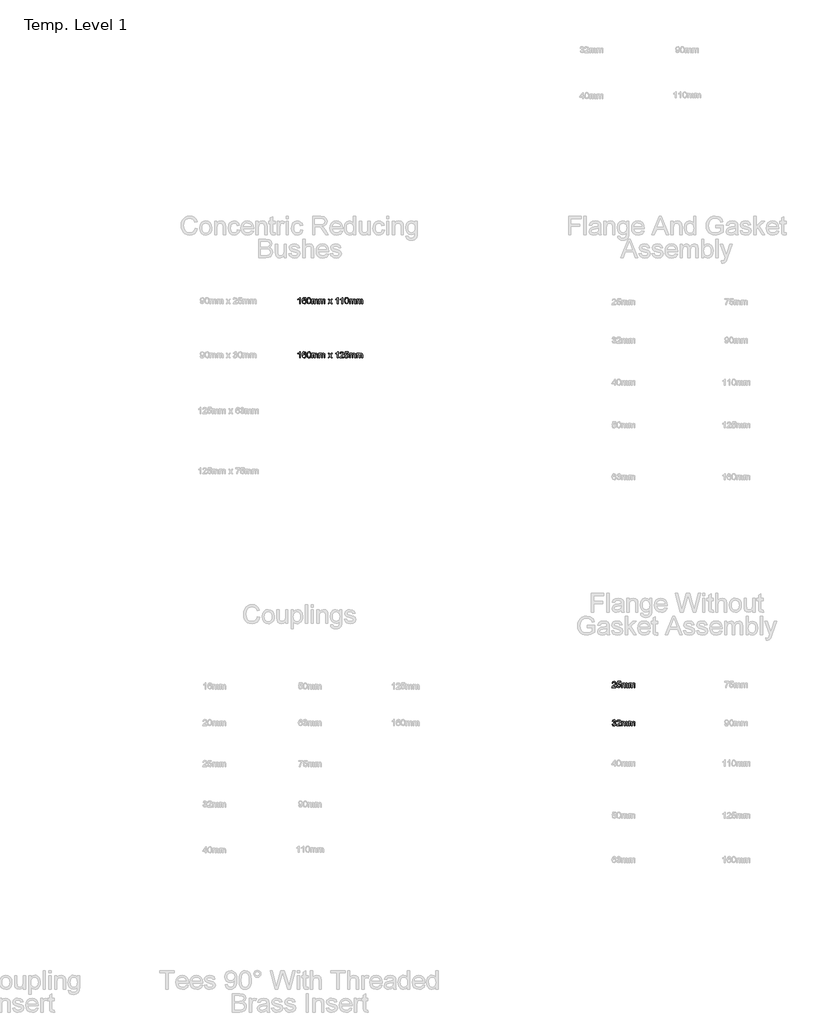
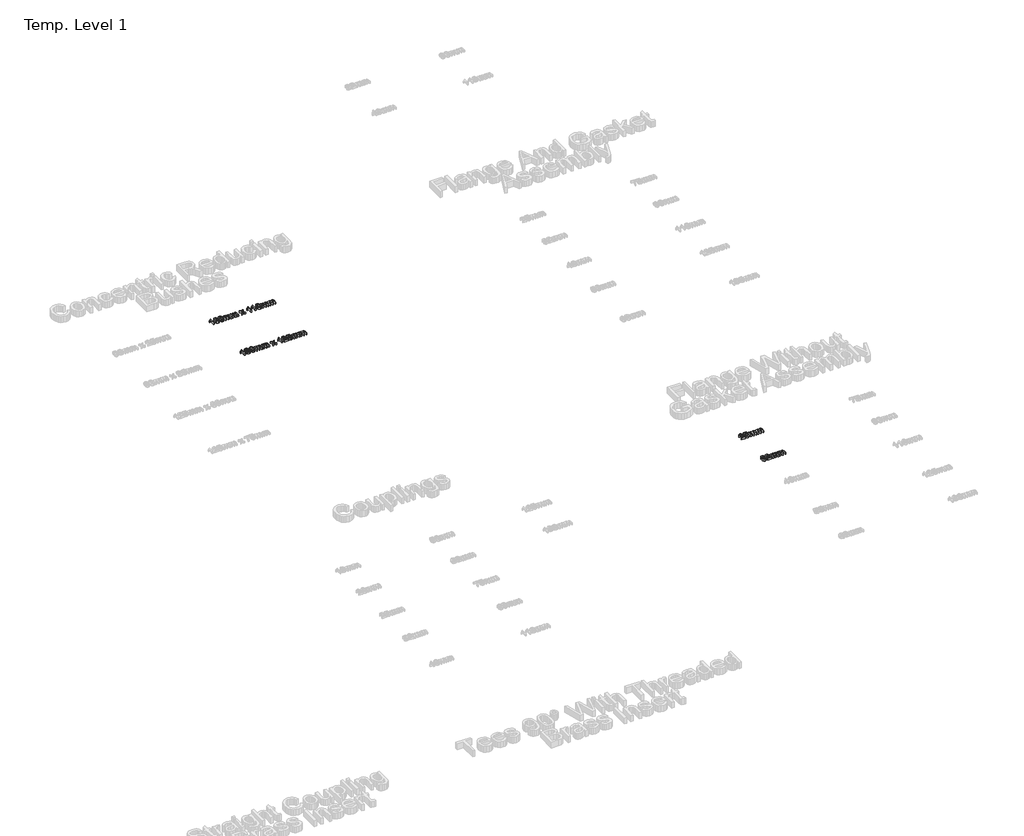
# One storey, part 32 of 62: 4 proxies.
"""IFC4 building model written with IfcOpenShell, lengths in millimetres."""

import ifcopenshell
import ifcopenshell.guid

model = None  # the IFC model being written
_history = None  # IfcOwnerHistory: only IFC2X3 demands one
_inside = {}  # id of a spatial element -> (the spatial element, [elements in it])
_under = {}  # id of a project, library or spatial element -> (it, [spatial elements below it])
_declared = {}  # id of a project -> (the project, [libraries it declares])
_typed = {}  # id of a type object -> (the type object, [elements of that type])
_made_of = {}  # id of a material, layer set ... -> (it, [elements and type objects made of it])


def new_model(schema):
    """Start an empty IFC model of exactly this schema.

    Asked for "IFC4X3", IfcOpenShell would pick the latest addendum, in which some entities
    have other attributes; the version numbers below select the first issue.
    IFC2X3 requires an IfcOwnerHistory on every rooted entity: one is made here for all.
    """
    global model, _history
    if schema == "IFC4X3":
        model = ifcopenshell.file(schema_version=(4, 3, 0, 0))
    else:
        model = ifcopenshell.file(schema=schema)
    _inside.clear()
    _under.clear()
    _declared.clear()
    _typed.clear()
    _made_of.clear()
    _history = None
    if model.schema == "IFC2X3":
        org = make("IfcOrganization", Name="unknown")
        user = make(
            "IfcPersonAndOrganization",
            ThePerson=make("IfcPerson", FamilyName="unknown"),
            TheOrganization=org,
        )
        app = make(
            "IfcApplication",
            ApplicationDeveloper=org,
            Version="unknown",
            ApplicationFullName="unknown",
            ApplicationIdentifier="unknown",
        )
        _history = make(
            "IfcOwnerHistory",
            OwningUser=user,
            OwningApplication=app,
            ChangeAction="ADDED",
            CreationDate=0,
        )
    return model


def make(cls, **values):
    """One entity of the class cls with the attributes given. An attribute that is None is left unset."""
    return model.create_entity(
        cls, **{name: value for name, value in values.items() if value is not None}
    )


def rooted(cls, **values):
    """An entity with a GlobalId (a new one), such as an element, a storey or a relation."""
    return make(cls, GlobalId=ifcopenshell.guid.new(), OwnerHistory=_history, **values)


def si_unit(unit_type, name, prefix=None):
    """IfcSIUnit, for example si_unit("LENGTHUNIT", "METRE", prefix="MILLI")."""
    return make("IfcSIUnit", UnitType=unit_type, Prefix=prefix, Name=name)


def assignment(units):
    """IfcUnitAssignment: the units of a project."""
    return None if units is None else make("IfcUnitAssignment", Units=units)


def point(xyz):
    """IfcCartesianPoint."""
    return None if xyz is None else make("IfcCartesianPoint", Coordinates=xyz)


def direction(xyz):
    """IfcDirection."""
    return None if xyz is None else make("IfcDirection", DirectionRatios=xyz)


def frame(location, z_axis=None, x_axis=None):
    """IfcAxis2Placement3D, a coordinate frame: its origin and axes. An axis left out is left unset."""
    return make(
        "IfcAxis2Placement3D",
        Location=point(location),
        Axis=direction(z_axis),
        RefDirection=direction(x_axis),
    )


def origin():
    """The frame at (0, 0, 0) with its axes left unset."""
    return frame((0.0, 0.0, 0.0))


def origin_with_axes():
    """The frame at (0, 0, 0) with the z axis (0, 0, 1) and the x axis (1, 0, 0) written out."""
    return frame((0.0, 0.0, 0.0), z_axis=(0.0, 0.0, 1.0), x_axis=(1.0, 0.0, 0.0))


def place(relative_to, where):
    """IfcLocalPlacement: puts the frame where relative to a parent placement (None: the world)."""
    return make(
        "IfcLocalPlacement", PlacementRelTo=relative_to, RelativePlacement=where
    )


def context(
    kind, dimensions, precision=None, world=None, true_north=None, identifier=None
):
    """IfcGeometricRepresentationContext, for example the 3D "Model" context."""
    return make(
        "IfcGeometricRepresentationContext",
        ContextIdentifier=identifier,
        ContextType=kind,
        CoordinateSpaceDimension=dimensions,
        Precision=precision,
        WorldCoordinateSystem=world,
        TrueNorth=true_north,
    )


def project(units=None, contexts=None):
    """IfcProject with its units and contexts."""
    return rooted(
        "IfcProject",
        Name="project",
        RepresentationContexts=contexts,
        UnitsInContext=assignment(units),
    )


def spatial(cls, under=None, at=None, **own):
    """A site, building, storey or space (cls), placed at a placement, below another one or the project."""
    s = rooted(cls, ObjectPlacement=at, **own)
    if under is not None:
        _under.setdefault(under.id(), (under, []))[1].append(s)
    return s


def polyline(points):
    """IfcPolyline through the points."""
    return make("IfcPolyline", Points=[point(p) for p in points])


def outline(outer, holes=None, kind="AREA"):
    """IfcArbitraryClosedProfileDef: a profile drawn as a closed curve; with holes, ...WithVoids."""
    if holes is None:
        return make("IfcArbitraryClosedProfileDef", ProfileType=kind, OuterCurve=outer)
    return make(
        "IfcArbitraryProfileDefWithVoids",
        ProfileType=kind,
        OuterCurve=outer,
        InnerCurves=holes,
    )


def extrude(swept, where, along, depth):
    """IfcExtrudedAreaSolid: the profile swept, set in the frame where, extruded along a direction by depth."""
    return make(
        "IfcExtrudedAreaSolid",
        SweptArea=swept,
        Position=where,
        ExtrudedDirection=direction(along),
        Depth=depth,
    )


def shape(context_of_items, identifier, shape_type, items):
    """IfcShapeRepresentation: the items that make up one representation, for example the "Body"."""
    return make(
        "IfcShapeRepresentation",
        ContextOfItems=context_of_items,
        RepresentationIdentifier=identifier,
        RepresentationType=shape_type,
        Items=items,
    )


def made_of(thing, what):
    """Note that an element or type object is made of a material, layer set ...; save() writes the relation."""
    if what is not None:
        _made_of.setdefault(what.id(), (what, []))[1].append(thing)
    return thing


def element(
    cls,
    number,
    at=None,
    inside=None,
    cuts=None,
    type_object=None,
    material=None,
    context=None,
    identifier="Body",
    shape_type=None,
    held_by="IfcProductDefinitionShape",
    body=None,
    shapes=None,
    **own,
):
    """One element of the class cls, such as IfcWall. Its Tag is "e" and its number.

    at: its placement. inside: the storey or other place that contains it. cuts: it is an
    opening in that element (IfcRelVoidsElement). A single representation is given by context,
    identifier, shape_type and body (its items); several are given by shapes. held_by: the class
    of the entity that holds the representations. save() writes the other relations.
    """
    e = rooted(cls, Tag="e%d" % number, ObjectPlacement=at, **own)
    if body is not None:
        shapes = [shape(context, identifier, shape_type, body)]
    if shapes is not None:
        e.Representation = make(held_by, Representations=shapes)
    if inside is not None:
        _inside.setdefault(inside.id(), (inside, []))[1].append(e)
    if cuts is not None:
        rooted(
            "IfcRelVoidsElement", RelatingBuildingElement=cuts, RelatedOpeningElement=e
        )
    if type_object is not None:
        _typed.setdefault(type_object.id(), (type_object, []))[1].append(e)
    return made_of(e, material)


def aggregate(whole, parts):
    """IfcRelAggregates: a whole, such as a stair, and the parts it consists of."""
    return rooted("IfcRelAggregates", RelatingObject=whole, RelatedObjects=parts)


def save(model, path):
    """Write the relations noted so far, then the file.

    IfcRelAggregates (storeys below a building ...), IfcRelContainedInSpatialStructure (elements
    in a storey), IfcRelDefinesByType, IfcRelAssociatesMaterial and IfcRelDeclares: one each for
    every whole, place, type object, material and project.
    """
    for whole, parts in _under.values():
        aggregate(whole, parts)
    for where, things in _inside.values():
        rooted(
            "IfcRelContainedInSpatialStructure",
            RelatedElements=things,
            RelatingStructure=where,
        )
    for kind, things in _typed.values():
        rooted("IfcRelDefinesByType", RelatedObjects=things, RelatingType=kind)
    for what, things in _made_of.values():
        rooted("IfcRelAssociatesMaterial", RelatedObjects=things, RelatingMaterial=what)
    for by, libraries in _declared.values():
        rooted("IfcRelDeclares", RelatingContext=by, RelatedDefinitions=libraries)
    model.write(path)


model = new_model("IFC4")

# Units and contexts
model_context = context("Model", 3, world=origin())
ifc_project = project(units=[si_unit("LENGTHUNIT", "METRE", prefix="MILLI")], contexts=[model_context])

# Site, building, storey
site = spatial("IfcSite", under=ifc_project)
building = spatial("IfcBuilding", under=site)
storey = spatial("IfcBuildingStorey", under=building, Name="Temp. Level 1", Elevation=0.0)

# Proxies
placement = place(None, origin())
element("IfcBuildingElementProxy", 1, Name="50mm Arial", ObjectType="50mm Arial", at=placement, inside=storey, context=model_context, shape_type="SweptSolid", body=[
    extrude(outline(polyline([(18425.4668879, -4526.5627719), (18419.3130417, -4526.5627719), (18419.3130417, -4488.1973873), (18413.4837148, -4492.3500315), (18407.0053494, -4495.4570027), (18407.0053494, -4489.639695), (18416.0257821, -4483.8824835), (18421.5005417, -4477.3320027), (18425.4668879, -4477.3320027), (18425.4668879, -4526.5627719)])), origin_with_axes(), (0.0, 0.0, 1.0), 15.0),
    extrude(outline(polyline([(18471.620734, -4490.4089258), (18465.4668879, -4491.1781565), (18463.1351571, -4486.045945), (18456.9692917, -4483.4858488), (18451.4164071, -4484.9762335), (18447.2156859, -4490.5711854), (18445.4668879, -4501.5387335), (18450.8935706, -4496.6288777), (18457.6183302, -4495.0243104), (18468.0750609, -4499.4113296), (18472.3899648, -4510.7454642), (18470.3587148, -4519.2370508), (18464.7697725, -4525.2466661), (18456.7048686, -4527.3320027), (18444.1628013, -4521.8031565), (18440.5254816, -4514.483445), (18439.3130417, -4503.5820027), (18440.6591956, -4491.3253921), (18444.6976571, -4482.9449835), (18450.2114792, -4478.7352479), (18457.3539071, -4477.3320027), (18467.0774648, -4480.8055604), (18471.620734, -4490.4089258)]), holes=[polyline([(18445.4668879, -4510.6493104), (18446.8911667, -4515.9798392), (18450.6772244, -4519.8500315), (18456.2240994, -4521.1781565), (18463.4777052, -4518.4257527), (18466.2361186, -4510.9497911), (18463.5137629, -4503.7923392), (18455.9716956, -4501.1781565), (18448.5257821, -4503.7923392), (18445.4668879, -4510.6493104)])]), origin_with_axes(), (0.0, 0.0, 1.0), 15.0),
    extrude(outline(polyline([(18477.7745802, -4502.3440219), (18479.5834744, -4488.1793585), (18484.9560706, -4480.0122911), (18493.9284263, -4477.3320027), (18501.1159263, -4478.9185411), (18506.0798686, -4483.4918585), (18508.964484, -4490.7755123), (18510.0822725, -4502.3440219), (18508.2914071, -4516.4485892), (18502.9368398, -4524.6336854), (18493.9284263, -4527.3320027), (18482.6784263, -4522.6445027), (18479.0005417, -4514.3181806), (18477.7745802, -4502.3440219)]), holes=[polyline([(18483.9284263, -4502.3320027), (18486.8130417, -4517.6144546), (18493.9284263, -4521.1781565), (18501.0438109, -4517.6024354), (18503.9284263, -4502.3320027), (18501.1399648, -4487.2238296), (18493.8563109, -4483.4858488), (18486.9091956, -4486.7791181), (18483.9284263, -4502.3320027)])]), origin_with_axes(), (0.0, 0.0, 1.0), 15.0),
    extrude(outline(polyline([(18517.0053494, -4526.5627719), (18517.0053494, -4490.4089258), (18523.1591956, -4490.4089258), (18523.1591956, -4496.358445), (18527.3899648, -4491.4846469), (18533.4115994, -4489.639695), (18539.5774648, -4491.5207046), (18542.9668879, -4496.7911373), (18547.7685706, -4491.4275556), (18553.8322725, -4489.639695), (18561.8791475, -4492.6144546), (18564.6976571, -4501.7791181), (18564.6976571, -4526.5627719), (18558.5438109, -4526.5627719), (18558.5438109, -4504.4233488), (18557.9728975, -4499.2851277), (18555.9055898, -4496.7550796), (18552.3899648, -4495.7935411), (18546.3382821, -4498.2574835), (18543.9284263, -4506.1541181), (18543.9284263, -4526.5627719), (18537.7745802, -4526.5627719), (18537.7745802, -4503.7382527), (18536.3503013, -4497.7767142), (18531.6808302, -4495.7935411), (18527.1255417, -4497.1156565), (18524.0966956, -4500.9858488), (18523.1591956, -4508.3295988), (18523.1591956, -4526.5627719), (18517.0053494, -4526.5627719)])), origin_with_axes(), (0.0, 0.0, 1.0), 15.0),
    extrude(outline(polyline([(18573.9284263, -4526.5627719), (18573.9284263, -4490.4089258), (18580.0822725, -4490.4089258), (18580.0822725, -4496.358445), (18584.3130417, -4491.4846469), (18590.3346763, -4489.639695), (18596.5005417, -4491.5207046), (18599.8899648, -4496.7911373), (18604.6916475, -4491.4275556), (18610.7553494, -4489.639695), (18618.8022244, -4492.6144546), (18621.620734, -4501.7791181), (18621.620734, -4526.5627719), (18615.4668879, -4526.5627719), (18615.4668879, -4504.4233488), (18614.8959744, -4499.2851277), (18612.8286667, -4496.7550796), (18609.3130417, -4495.7935411), (18603.261359, -4498.2574835), (18600.8515033, -4506.1541181), (18600.8515033, -4526.5627719), (18594.6976571, -4526.5627719), (18594.6976571, -4503.7382527), (18593.2733783, -4497.7767142), (18588.6039071, -4495.7935411), (18584.0486186, -4497.1156565), (18581.0197725, -4500.9858488), (18580.0822725, -4508.3295988), (18580.0822725, -4526.5627719), (18573.9284263, -4526.5627719)])), origin_with_axes(), (0.0, 0.0, 1.0), 15.0),
    extrude(outline(polyline([(18646.2361186, -4526.5627719), (18659.3851571, -4508.389695), (18647.0053494, -4490.4089258), (18654.4091956, -4490.4089258), (18660.3827533, -4499.0627719), (18663.1712148, -4503.1493104), (18665.5870802, -4499.8079642), (18672.3899648, -4490.4089258), (18679.7938109, -4490.4089258), (18666.7890033, -4508.389695), (18679.3130417, -4526.5627719), (18671.9091956, -4526.5627719), (18664.3731379, -4515.6372911), (18662.9909263, -4513.6420988), (18653.6399648, -4526.5627719), (18646.2361186, -4526.5627719)])), origin_with_axes(), (0.0, 0.0, 1.0), 15.0),
    extrude(outline(polyline([(18725.4668879, -4526.5627719), (18719.3130417, -4526.5627719), (18719.3130417, -4488.1973873), (18713.4837148, -4492.3500315), (18707.0053494, -4495.4570027), (18707.0053494, -4489.639695), (18716.0257821, -4483.8824835), (18721.5005417, -4477.3320027), (18725.4668879, -4477.3320027), (18725.4668879, -4526.5627719)])), origin_with_axes(), (0.0, 0.0, 1.0), 15.0),
    extrude(outline(polyline([(18763.1591956, -4526.5627719), (18757.0053494, -4526.5627719), (18757.0053494, -4488.1973873), (18751.1760225, -4492.3500315), (18744.6976571, -4495.4570027), (18744.6976571, -4489.639695), (18753.7180898, -4483.8824835), (18759.1928494, -4477.3320027), (18763.1591956, -4477.3320027), (18763.1591956, -4526.5627719)])), origin_with_axes(), (0.0, 0.0, 1.0), 15.0),
    extrude(outline(polyline([(18777.7745802, -4502.3440219), (18779.5834744, -4488.1793585), (18784.9560706, -4480.0122911), (18793.9284263, -4477.3320027), (18801.1159263, -4478.9185411), (18806.0798686, -4483.4918585), (18808.964484, -4490.7755123), (18810.0822725, -4502.3440219), (18808.2914071, -4516.4485892), (18802.9368398, -4524.6336854), (18793.9284263, -4527.3320027), (18782.6784263, -4522.6445027), (18779.0005417, -4514.3181806), (18777.7745802, -4502.3440219)]), holes=[polyline([(18783.9284263, -4502.3320027), (18786.8130417, -4517.6144546), (18793.9284263, -4521.1781565), (18801.0438109, -4517.6024354), (18803.9284263, -4502.3320027), (18801.1399648, -4487.2238296), (18793.8563109, -4483.4858488), (18786.9091956, -4486.7791181), (18783.9284263, -4502.3320027)])]), origin_with_axes(), (0.0, 0.0, 1.0), 15.0),
    extrude(outline(polyline([(18817.0053494, -4526.5627719), (18817.0053494, -4490.4089258), (18823.1591956, -4490.4089258), (18823.1591956, -4496.358445), (18827.3899648, -4491.4846469), (18833.4115994, -4489.639695), (18839.5774648, -4491.5207046), (18842.9668879, -4496.7911373), (18847.7685706, -4491.4275556), (18853.8322725, -4489.639695), (18861.8791475, -4492.6144546), (18864.6976571, -4501.7791181), (18864.6976571, -4526.5627719), (18858.5438109, -4526.5627719), (18858.5438109, -4504.4233488), (18857.9728975, -4499.2851277), (18855.9055898, -4496.7550796), (18852.3899648, -4495.7935411), (18846.3382821, -4498.2574835), (18843.9284263, -4506.1541181), (18843.9284263, -4526.5627719), (18837.7745802, -4526.5627719), (18837.7745802, -4503.7382527), (18836.3503013, -4497.7767142), (18831.6808302, -4495.7935411), (18827.1255417, -4497.1156565), (18824.0966956, -4500.9858488), (18823.1591956, -4508.3295988), (18823.1591956, -4526.5627719), (18817.0053494, -4526.5627719)])), origin_with_axes(), (0.0, 0.0, 1.0), 15.0),
    extrude(outline(polyline([(18873.9284263, -4526.5627719), (18873.9284263, -4490.4089258), (18880.0822725, -4490.4089258), (18880.0822725, -4496.358445), (18884.3130417, -4491.4846469), (18890.3346763, -4489.639695), (18896.5005417, -4491.5207046), (18899.8899648, -4496.7911373), (18904.6916475, -4491.4275556), (18910.7553494, -4489.639695), (18918.8022244, -4492.6144546), (18921.620734, -4501.7791181), (18921.620734, -4526.5627719), (18915.4668879, -4526.5627719), (18915.4668879, -4504.4233488), (18914.8959744, -4499.2851277), (18912.8286667, -4496.7550796), (18909.3130417, -4495.7935411), (18903.261359, -4498.2574835), (18900.8515033, -4506.1541181), (18900.8515033, -4526.5627719), (18894.6976571, -4526.5627719), (18894.6976571, -4503.7382527), (18893.2733783, -4497.7767142), (18888.6039071, -4495.7935411), (18884.0486186, -4497.1156565), (18881.0197725, -4500.9858488), (18880.0822725, -4508.3295988), (18880.0822725, -4526.5627719), (18873.9284263, -4526.5627719)])), origin_with_axes(), (0.0, 0.0, 1.0), 15.0),
])
element("IfcBuildingElementProxy", 2, Name="50mm Arial", ObjectType="50mm Arial", at=placement, inside=storey, context=model_context, shape_type="SweptSolid", body=[
    extrude(outline(polyline([(18425.4668879, -4957.698517), (18419.3130417, -4957.698517), (18419.3130417, -4919.3331324), (18413.4837148, -4923.4857766), (18407.0053494, -4926.5927478), (18407.0053494, -4920.7754401), (18416.0257821, -4915.0182286), (18421.5005417, -4908.4677478), (18425.4668879, -4908.4677478), (18425.4668879, -4957.698517)])), origin_with_axes(), (0.0, 0.0, 1.0), 15.0),
    extrude(outline(polyline([(18471.620734, -4921.5446709), (18465.4668879, -4922.3139016), (18463.1351571, -4917.1816901), (18456.9692917, -4914.6215939), (18451.4164071, -4916.1119786), (18447.2156859, -4921.7069305), (18445.4668879, -4932.6744786), (18450.8935706, -4927.7646228), (18457.6183302, -4926.1600555), (18468.0750609, -4930.5470747), (18472.3899648, -4941.8812093), (18470.3587148, -4950.3727959), (18464.7697725, -4956.3824112), (18456.7048686, -4958.4677478), (18444.1628013, -4952.9389016), (18440.5254816, -4945.6191901), (18439.3130417, -4934.7177478), (18440.6591956, -4922.4611372), (18444.6976571, -4914.0807286), (18450.2114792, -4909.870993), (18457.3539071, -4908.4677478), (18467.0774648, -4911.9413055), (18471.620734, -4921.5446709)]), holes=[polyline([(18445.4668879, -4941.7850555), (18446.8911667, -4947.1155843), (18450.6772244, -4950.9857766), (18456.2240994, -4952.3139016), (18463.4777052, -4949.5614978), (18466.2361186, -4942.0855362), (18463.5137629, -4934.9280843), (18455.9716956, -4932.3139016), (18448.5257821, -4934.9280843), (18445.4668879, -4941.7850555)])]), origin_with_axes(), (0.0, 0.0, 1.0), 15.0),
    extrude(outline(polyline([(18477.7745802, -4933.479767), (18479.5834744, -4919.3151036), (18484.9560706, -4911.1480362), (18493.9284263, -4908.4677478), (18501.1159263, -4910.0542862), (18506.0798686, -4914.6276036), (18508.964484, -4921.9112574), (18510.0822725, -4933.479767), (18508.2914071, -4947.5843343), (18502.9368398, -4955.7694305), (18493.9284263, -4958.4677478), (18482.6784263, -4953.7802478), (18479.0005417, -4945.4539257), (18477.7745802, -4933.479767)]), holes=[polyline([(18483.9284263, -4933.4677478), (18486.8130417, -4948.7501997), (18493.9284263, -4952.3139016), (18501.0438109, -4948.7381805), (18503.9284263, -4933.4677478), (18501.1399648, -4918.3595747), (18493.8563109, -4914.6215939), (18486.9091956, -4917.9148632), (18483.9284263, -4933.4677478)])]), origin_with_axes(), (0.0, 0.0, 1.0), 15.0),
    extrude(outline(polyline([(18517.0053494, -4957.698517), (18517.0053494, -4921.5446709), (18523.1591956, -4921.5446709), (18523.1591956, -4927.4941901), (18527.3899648, -4922.620392), (18533.4115994, -4920.7754401), (18539.5774648, -4922.6564497), (18542.9668879, -4927.9268824), (18547.7685706, -4922.5633007), (18553.8322725, -4920.7754401), (18561.8791475, -4923.7501997), (18564.6976571, -4932.9148632), (18564.6976571, -4957.698517), (18558.5438109, -4957.698517), (18558.5438109, -4935.5590939), (18557.9728975, -4930.4208728), (18555.9055898, -4927.8908247), (18552.3899648, -4926.9292862), (18546.3382821, -4929.3932286), (18543.9284263, -4937.2898632), (18543.9284263, -4957.698517), (18537.7745802, -4957.698517), (18537.7745802, -4934.8739978), (18536.3503013, -4928.9124593), (18531.6808302, -4926.9292862), (18527.1255417, -4928.2514016), (18524.0966956, -4932.1215939), (18523.1591956, -4939.4653439), (18523.1591956, -4957.698517), (18517.0053494, -4957.698517)])), origin_with_axes(), (0.0, 0.0, 1.0), 15.0),
    extrude(outline(polyline([(18573.9284263, -4957.698517), (18573.9284263, -4921.5446709), (18580.0822725, -4921.5446709), (18580.0822725, -4927.4941901), (18584.3130417, -4922.620392), (18590.3346763, -4920.7754401), (18596.5005417, -4922.6564497), (18599.8899648, -4927.9268824), (18604.6916475, -4922.5633007), (18610.7553494, -4920.7754401), (18618.8022244, -4923.7501997), (18621.620734, -4932.9148632), (18621.620734, -4957.698517), (18615.4668879, -4957.698517), (18615.4668879, -4935.5590939), (18614.8959744, -4930.4208728), (18612.8286667, -4927.8908247), (18609.3130417, -4926.9292862), (18603.261359, -4929.3932286), (18600.8515033, -4937.2898632), (18600.8515033, -4957.698517), (18594.6976571, -4957.698517), (18594.6976571, -4934.8739978), (18593.2733783, -4928.9124593), (18588.6039071, -4926.9292862), (18584.0486186, -4928.2514016), (18581.0197725, -4932.1215939), (18580.0822725, -4939.4653439), (18580.0822725, -4957.698517), (18573.9284263, -4957.698517)])), origin_with_axes(), (0.0, 0.0, 1.0), 15.0),
    extrude(outline(polyline([(18646.2361186, -4957.698517), (18659.3851571, -4939.5254401), (18647.0053494, -4921.5446709), (18654.4091956, -4921.5446709), (18660.3827533, -4930.198517), (18663.1712148, -4934.2850555), (18665.5870802, -4930.9437093), (18672.3899648, -4921.5446709), (18679.7938109, -4921.5446709), (18666.7890033, -4939.5254401), (18679.3130417, -4957.698517), (18671.9091956, -4957.698517), (18664.3731379, -4946.7730362), (18662.9909263, -4944.7778439), (18653.6399648, -4957.698517), (18646.2361186, -4957.698517)])), origin_with_axes(), (0.0, 0.0, 1.0), 15.0),
    extrude(outline(polyline([(18725.4668879, -4957.698517), (18719.3130417, -4957.698517), (18719.3130417, -4919.3331324), (18713.4837148, -4923.4857766), (18707.0053494, -4926.5927478), (18707.0053494, -4920.7754401), (18716.0257821, -4915.0182286), (18721.5005417, -4908.4677478), (18725.4668879, -4908.4677478), (18725.4668879, -4957.698517)])), origin_with_axes(), (0.0, 0.0, 1.0), 15.0),
    extrude(outline(polyline([(18771.620734, -4951.5446709), (18771.620734, -4957.698517), (18739.3130417, -4957.698517), (18739.9740994, -4953.4557286), (18743.7120802, -4946.9232766), (18751.4164071, -4939.7898632), (18762.0414071, -4929.5374593), (18764.6976571, -4922.5663055), (18762.1916475, -4916.9232766), (18755.6471763, -4914.6215939), (18748.8262629, -4916.8691901), (18746.2361186, -4923.0831324), (18740.0822725, -4922.3139016), (18744.7998206, -4912.0134209), (18755.7793879, -4908.4677478), (18766.7950129, -4912.4100555), (18770.8515033, -4922.1937093), (18769.7577533, -4928.0290459), (18766.1219359, -4934.0626997), (18757.3058302, -4942.4941901), (18750.2265033, -4948.4136612), (18747.4500609, -4951.5446709), (18771.620734, -4951.5446709)])), origin_with_axes(), (0.0, 0.0, 1.0), 15.0),
    extrude(outline(polyline([(18777.7745802, -4944.6215939), (18783.9284263, -4943.8523632), (18787.0293879, -4950.1925074), (18793.4596763, -4952.3139016), (18801.1760225, -4949.3631805), (18803.9284263, -4941.5326516), (18801.3503013, -4934.2249593), (18793.5558302, -4931.5446709), (18788.1531859, -4932.6143824), (18784.6976571, -4935.3908247), (18778.5438109, -4934.6215939), (18783.9284263, -4909.2369786), (18807.7745802, -4909.2369786), (18807.7745802, -4915.3908247), (18788.9043879, -4915.3908247), (18786.2721763, -4928.948517), (18795.2745802, -4925.3908247), (18805.7974167, -4929.8018824), (18810.0822725, -4941.1480362), (18806.2240994, -4952.5663055), (18800.683234, -4956.9923872), (18793.4356379, -4958.4677478), (18782.5762629, -4954.6756805), (18777.7745802, -4944.6215939)])), origin_with_axes(), (0.0, 0.0, 1.0), 15.0),
    extrude(outline(polyline([(18817.0053494, -4957.698517), (18817.0053494, -4921.5446709), (18823.1591956, -4921.5446709), (18823.1591956, -4927.4941901), (18827.3899648, -4922.620392), (18833.4115994, -4920.7754401), (18839.5774648, -4922.6564497), (18842.9668879, -4927.9268824), (18847.7685706, -4922.5633007), (18853.8322725, -4920.7754401), (18861.8791475, -4923.7501997), (18864.6976571, -4932.9148632), (18864.6976571, -4957.698517), (18858.5438109, -4957.698517), (18858.5438109, -4935.5590939), (18857.9728975, -4930.4208728), (18855.9055898, -4927.8908247), (18852.3899648, -4926.9292862), (18846.3382821, -4929.3932286), (18843.9284263, -4937.2898632), (18843.9284263, -4957.698517), (18837.7745802, -4957.698517), (18837.7745802, -4934.8739978), (18836.3503013, -4928.9124593), (18831.6808302, -4926.9292862), (18827.1255417, -4928.2514016), (18824.0966956, -4932.1215939), (18823.1591956, -4939.4653439), (18823.1591956, -4957.698517), (18817.0053494, -4957.698517)])), origin_with_axes(), (0.0, 0.0, 1.0), 15.0),
    extrude(outline(polyline([(18873.9284263, -4957.698517), (18873.9284263, -4921.5446709), (18880.0822725, -4921.5446709), (18880.0822725, -4927.4941901), (18884.3130417, -4922.620392), (18890.3346763, -4920.7754401), (18896.5005417, -4922.6564497), (18899.8899648, -4927.9268824), (18904.6916475, -4922.5633007), (18910.7553494, -4920.7754401), (18918.8022244, -4923.7501997), (18921.620734, -4932.9148632), (18921.620734, -4957.698517), (18915.4668879, -4957.698517), (18915.4668879, -4935.5590939), (18914.8959744, -4930.4208728), (18912.8286667, -4927.8908247), (18909.3130417, -4926.9292862), (18903.261359, -4929.3932286), (18900.8515033, -4937.2898632), (18900.8515033, -4957.698517), (18894.6976571, -4957.698517), (18894.6976571, -4934.8739978), (18893.2733783, -4928.9124593), (18888.6039071, -4926.9292862), (18884.0486186, -4928.2514016), (18881.0197725, -4932.1215939), (18880.0822725, -4939.4653439), (18880.0822725, -4957.698517), (18873.9284263, -4957.698517)])), origin_with_axes(), (0.0, 0.0, 1.0), 15.0),
])
element("IfcBuildingElementProxy", 3, Name="50mm Arial", ObjectType="50mm Arial", at=placement, inside=storey, context=model_context, shape_type="SweptSolid", body=[
    extrude(outline(polyline([(20936.7745802, -7574.0446709), (20936.7745802, -7580.198517), (20904.4668879, -7580.198517), (20905.1279456, -7575.9557286), (20908.8659263, -7569.4232766), (20916.5702533, -7562.2898632), (20927.1952533, -7552.0374593), (20929.8515033, -7545.0663055), (20927.3454936, -7539.4232766), (20920.8010225, -7537.1215939), (20913.980109, -7539.3691901), (20911.3899648, -7545.5831324), (20905.2361186, -7544.8139016), (20909.9536667, -7534.5134209), (20920.933234, -7530.9677478), (20931.948859, -7534.9100555), (20936.0053494, -7544.6937093), (20934.9115994, -7550.5290459), (20931.2757821, -7556.5626997), (20922.4596763, -7564.9941901), (20915.3803494, -7570.9136612), (20912.6039071, -7574.0446709), (20936.7745802, -7574.0446709)])), origin_with_axes(), (0.0, 0.0, 1.0), 15.0),
    extrude(outline(polyline([(20942.9284263, -7567.1215939), (20949.0822725, -7566.3523632), (20952.183234, -7572.6925074), (20958.6135225, -7574.8139016), (20966.3298686, -7571.8631805), (20969.0822725, -7564.0326516), (20966.5041475, -7556.7249593), (20958.7096763, -7554.0446709), (20953.3070321, -7555.1143824), (20949.8515033, -7557.8908247), (20943.6976571, -7557.1215939), (20949.0822725, -7531.7369786), (20972.9284263, -7531.7369786), (20972.9284263, -7537.8908247), (20954.058234, -7537.8908247), (20951.4260225, -7551.448517), (20960.4284263, -7547.8908247), (20970.9512629, -7552.3018824), (20975.2361186, -7563.6480362), (20971.3779456, -7575.0663055), (20965.8370802, -7579.4923872), (20958.589484, -7580.9677478), (20947.730109, -7577.1756805), (20942.9284263, -7567.1215939)])), origin_with_axes(), (0.0, 0.0, 1.0), 15.0),
    extrude(outline(polyline([(20982.1591956, -7580.198517), (20982.1591956, -7544.0446709), (20988.3130417, -7544.0446709), (20988.3130417, -7549.9941901), (20992.5438109, -7545.120392), (20998.5654456, -7543.2754401), (21004.7313109, -7545.1564497), (21008.120734, -7550.4268824), (21012.9224167, -7545.0633007), (21018.9861186, -7543.2754401), (21027.0329936, -7546.2501997), (21029.8515033, -7555.4148632), (21029.8515033, -7580.198517), (21023.6976571, -7580.198517), (21023.6976571, -7558.0590939), (21023.1267436, -7552.9208728), (21021.0594359, -7550.3908247), (21017.5438109, -7549.4292862), (21011.4921283, -7551.8932286), (21009.0822725, -7559.7898632), (21009.0822725, -7580.198517), (21002.9284263, -7580.198517), (21002.9284263, -7557.3739978), (21001.5041475, -7551.4124593), (20996.8346763, -7549.4292862), (20992.2793879, -7550.7514016), (20989.2505417, -7554.6215939), (20988.3130417, -7561.9653439), (20988.3130417, -7580.198517), (20982.1591956, -7580.198517)])), origin_with_axes(), (0.0, 0.0, 1.0), 15.0),
    extrude(outline(polyline([(21039.0822725, -7580.198517), (21039.0822725, -7544.0446709), (21045.2361186, -7544.0446709), (21045.2361186, -7549.9941901), (21049.4668879, -7545.120392), (21055.4885225, -7543.2754401), (21061.6543879, -7545.1564497), (21065.0438109, -7550.4268824), (21069.8454936, -7545.0633007), (21075.9091956, -7543.2754401), (21083.9560706, -7546.2501997), (21086.7745802, -7555.4148632), (21086.7745802, -7580.198517), (21080.620734, -7580.198517), (21080.620734, -7558.0590939), (21080.0498206, -7552.9208728), (21077.9825129, -7550.3908247), (21074.4668879, -7549.4292862), (21068.4152052, -7551.8932286), (21066.0053494, -7559.7898632), (21066.0053494, -7580.198517), (21059.8515033, -7580.198517), (21059.8515033, -7557.3739978), (21058.4272244, -7551.4124593), (21053.7577533, -7549.4292862), (21049.2024648, -7550.7514016), (21046.1736186, -7554.6215939), (21045.2361186, -7561.9653439), (21045.2361186, -7580.198517), (21039.0822725, -7580.198517)])), origin_with_axes(), (0.0, 0.0, 1.0), 15.0),
])
element("IfcBuildingElementProxy", 4, Name="50mm Arial", ObjectType="50mm Arial", at=placement, inside=storey, context=model_context, shape_type="SweptSolid", body=[
    extrude(outline(polyline([(20905.2361186, -7872.1215939), (20911.3899648, -7871.3523632), (20914.7853975, -7877.8307286), (20921.1375609, -7879.8139016), (20928.6135225, -7877.0855362), (20931.3899648, -7870.3307286), (20928.6375609, -7863.9665459), (20921.6423686, -7861.448517), (20917.3274648, -7862.1215939), (20918.0125609, -7855.9677478), (20925.9813109, -7854.2730362), (20929.0822725, -7848.8403439), (20926.8346763, -7844.026642), (20921.0414071, -7842.1215939), (20915.1760225, -7844.0446709), (20912.1591956, -7849.8139016), (20906.0053494, -7849.0446709), (20911.0414071, -7839.3932286), (20920.8250609, -7835.9677478), (20928.2469359, -7837.6564497), (20933.4392436, -7842.2718343), (20935.2361186, -7848.479767), (20933.5293879, -7854.1528439), (20928.4813109, -7858.2273632), (20935.1880417, -7862.4340939), (20937.5438109, -7870.4389016), (20932.8322725, -7881.448517), (20920.9212148, -7885.9677478), (20910.1279456, -7882.1095747), (20905.2361186, -7872.1215939)])), origin_with_axes(), (0.0, 0.0, 1.0), 15.0),
    extrude(outline(polyline([(20974.4668879, -7879.0446709), (20974.4668879, -7885.198517), (20942.1591956, -7885.198517), (20942.8202533, -7880.9557286), (20946.558234, -7874.4232766), (20954.2625609, -7867.2898632), (20964.8875609, -7857.0374593), (20967.5438109, -7850.0663055), (20965.0378013, -7844.4232766), (20958.4933302, -7842.1215939), (20951.6724167, -7844.3691901), (20949.0822725, -7850.5831324), (20942.9284263, -7849.8139016), (20947.6459744, -7839.5134209), (20958.6255417, -7835.9677478), (20969.6411667, -7839.9100555), (20973.6976571, -7849.6937093), (20972.6039071, -7855.5290459), (20968.9680898, -7861.5626997), (20960.151984, -7869.9941901), (20953.0726571, -7875.9136612), (20950.2962148, -7879.0446709), (20974.4668879, -7879.0446709)])), origin_with_axes(), (0.0, 0.0, 1.0), 15.0),
    extrude(outline(polyline([(20982.1591956, -7885.198517), (20982.1591956, -7849.0446709), (20988.3130417, -7849.0446709), (20988.3130417, -7854.9941901), (20992.5438109, -7850.120392), (20998.5654456, -7848.2754401), (21004.7313109, -7850.1564497), (21008.120734, -7855.4268824), (21012.9224167, -7850.0633007), (21018.9861186, -7848.2754401), (21027.0329936, -7851.2501997), (21029.8515033, -7860.4148632), (21029.8515033, -7885.198517), (21023.6976571, -7885.198517), (21023.6976571, -7863.0590939), (21023.1267436, -7857.9208728), (21021.0594359, -7855.3908247), (21017.5438109, -7854.4292862), (21011.4921283, -7856.8932286), (21009.0822725, -7864.7898632), (21009.0822725, -7885.198517), (21002.9284263, -7885.198517), (21002.9284263, -7862.3739978), (21001.5041475, -7856.4124593), (20996.8346763, -7854.4292862), (20992.2793879, -7855.7514016), (20989.2505417, -7859.6215939), (20988.3130417, -7866.9653439), (20988.3130417, -7885.198517), (20982.1591956, -7885.198517)])), origin_with_axes(), (0.0, 0.0, 1.0), 15.0),
    extrude(outline(polyline([(21039.0822725, -7885.198517), (21039.0822725, -7849.0446709), (21045.2361186, -7849.0446709), (21045.2361186, -7854.9941901), (21049.4668879, -7850.120392), (21055.4885225, -7848.2754401), (21061.6543879, -7850.1564497), (21065.0438109, -7855.4268824), (21069.8454936, -7850.0633007), (21075.9091956, -7848.2754401), (21083.9560706, -7851.2501997), (21086.7745802, -7860.4148632), (21086.7745802, -7885.198517), (21080.620734, -7885.198517), (21080.620734, -7863.0590939), (21080.0498206, -7857.9208728), (21077.9825129, -7855.3908247), (21074.4668879, -7854.4292862), (21068.4152052, -7856.8932286), (21066.0053494, -7864.7898632), (21066.0053494, -7885.198517), (21059.8515033, -7885.198517), (21059.8515033, -7862.3739978), (21058.4272244, -7856.4124593), (21053.7577533, -7854.4292862), (21049.2024648, -7855.7514016), (21046.1736186, -7859.6215939), (21045.2361186, -7866.9653439), (21045.2361186, -7885.198517), (21039.0822725, -7885.198517)])), origin_with_axes(), (0.0, 0.0, 1.0), 15.0),
])

save(model, "model.ifc")
